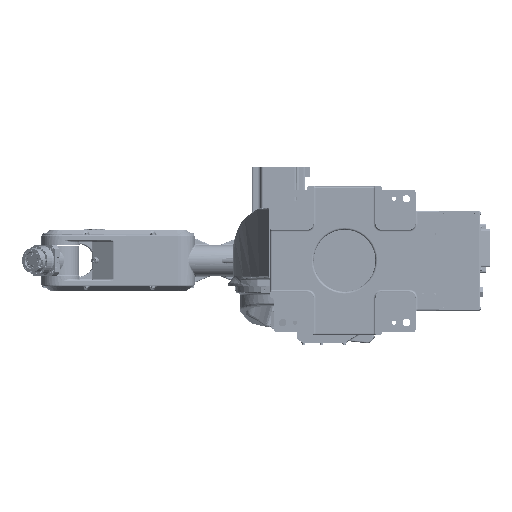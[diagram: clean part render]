
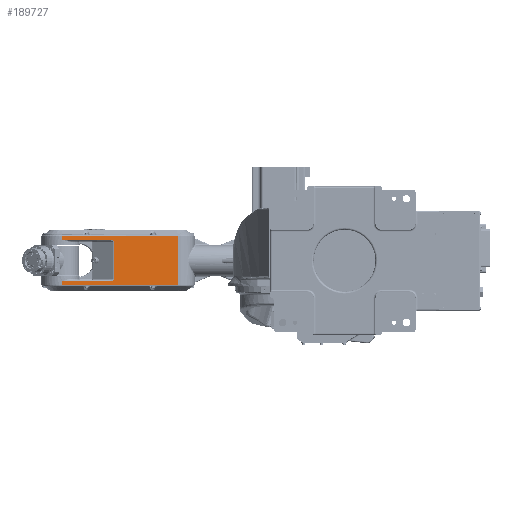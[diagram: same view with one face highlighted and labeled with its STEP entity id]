
A CAD part, front view. The second image highlights one B-rep face of the part: STEP entity #189727.
In plain terms, the highlighted planar face has unit normal (0.101, -0.995, 0) as drawn and (0, 1, 0) by its records, which use the part's own axes.
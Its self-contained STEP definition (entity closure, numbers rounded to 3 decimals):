
#778 = VERTEX_POINT ( 'NONE', #90736 ) ;
#1961 =( BOUNDED_CURVE ( )  B_SPLINE_CURVE ( 3, ( #88651, #184844, #49875, #4566 ),
 .UNSPECIFIED., .F., .F. ) 
 B_SPLINE_CURVE_WITH_KNOTS ( ( 4, 4 ),
 ( 1.571, 3.142 ),
 .UNSPECIFIED. ) 
 CURVE ( )  GEOMETRIC_REPRESENTATION_ITEM ( )  RATIONAL_B_SPLINE_CURVE ( ( 1., 0.805, 0.805, 1. ) ) 
 REPRESENTATION_ITEM ( '' )  );
#4343 = CARTESIAN_POINT ( 'NONE',  ( 372.238, 46., -47.5 ) ) ;
#4566 = CARTESIAN_POINT ( 'NONE',  ( 372.238, 46., 44.5 ) ) ;
#13105 = LINE ( 'NONE', #178571, #169790 ) ;
#15659 = VECTOR ( 'NONE', #107824, 1000. ) ;
#22011 = FACE_OUTER_BOUND ( 'NONE', #123506, .T. ) ;
#28423 =( BOUNDED_CURVE ( )  B_SPLINE_CURVE ( 3, ( #120437, #180492, #45557, #105669 ),
 .UNSPECIFIED., .F., .F. ) 
 B_SPLINE_CURVE_WITH_KNOTS ( ( 4, 4 ),
 ( 3.142, 4.712 ),
 .UNSPECIFIED. ) 
 CURVE ( )  GEOMETRIC_REPRESENTATION_ITEM ( )  RATIONAL_B_SPLINE_CURVE ( ( 1., 0.805, 0.805, 1. ) ) 
 REPRESENTATION_ITEM ( '' )  );
#30898 = VERTEX_POINT ( 'NONE', #113107 ) ;
#32186 = LINE ( 'NONE', #91322, #48870 ) ;
#42460 = ORIENTED_EDGE ( 'NONE', *, *, #54193, .T. ) ;
#43303 = VERTEX_POINT ( 'NONE', #111743 ) ;
#45557 = CARTESIAN_POINT ( 'NONE',  ( 376.104, 46., -50.5 ) ) ;
#48870 = VECTOR ( 'NONE', #123827, 1000. ) ;
#49875 = CARTESIAN_POINT ( 'NONE',  ( 372.238, 46., 48.015 ) ) ;
#50332 = CARTESIAN_POINT ( 'NONE',  ( 498., 46., -62. ) ) ;
#51194 = VECTOR ( 'NONE', #82806, 1000. ) ;
#53493 = PLANE ( 'NONE',  #147108 ) ;
#54193 = EDGE_CURVE ( 'NONE', #778, #128237, #1961, .T. ) ;
#55860 = LINE ( 'NONE', #115988, #118741 ) ;
#58538 = EDGE_CURVE ( 'NONE', #71687, #81911, #28423, .T. ) ;
#61066 = EDGE_CURVE ( 'NONE', #148885, #43303, #64136, .T. ) ;
#62206 = CARTESIAN_POINT ( 'NONE',  ( 216., 46., -59. ) ) ;
#63237 = ORIENTED_EDGE ( 'NONE', *, *, #68045, .T. ) ;
#64136 = LINE ( 'NONE', #50332, #51194 ) ;
#64344 = CARTESIAN_POINT ( 'NONE',  ( 372.238, 46., -44.5 ) ) ;
#65742 = EDGE_CURVE ( 'NONE', #95926, #30898, #188720, .T. ) ;
#66250 = CARTESIAN_POINT ( 'NONE',  ( 498., 46., -59. ) ) ;
#68045 = EDGE_CURVE ( 'NONE', #181356, #129789, #32186, .T. ) ;
#70829 = VECTOR ( 'NONE', #131563, 1000. ) ;
#71687 = VERTEX_POINT ( 'NONE', #64344 ) ;
#73406 = CARTESIAN_POINT ( 'NONE',  ( 498., 46., 50.5 ) ) ;
#75310 = ORIENTED_EDGE ( 'NONE', *, *, #58538, .T. ) ;
#78936 = DIRECTION ( 'NONE',  ( 1., 0., 0. ) ) ;
#79736 = ORIENTED_EDGE ( 'NONE', *, *, #139336, .T. ) ;
#79918 = VECTOR ( 'NONE', #78936, 1000. ) ;
#80147 = CARTESIAN_POINT ( 'NONE',  ( 498., 46., -62. ) ) ;
#81911 = VERTEX_POINT ( 'NONE', #192364 ) ;
#82806 = DIRECTION ( 'NONE',  ( 0., 0., 1. ) ) ;
#88651 = CARTESIAN_POINT ( 'NONE',  ( 381.572, 46., 50.5 ) ) ;
#90736 = CARTESIAN_POINT ( 'NONE',  ( 381.572, 46., 50.5 ) ) ;
#91322 = CARTESIAN_POINT ( 'NONE',  ( 216., 46., -62. ) ) ;
#95926 = VERTEX_POINT ( 'NONE', #66250 ) ;
#96315 = CARTESIAN_POINT ( 'NONE',  ( 372.238, 46., 44.5 ) ) ;
#96862 = DIRECTION ( 'NONE',  ( 0., -1., 0. ) ) ;
#97833 = CARTESIAN_POINT ( 'NONE',  ( 216., 46., 59. ) ) ;
#99091 = CARTESIAN_POINT ( 'NONE',  ( 216., 46., -59. ) ) ;
#105669 = CARTESIAN_POINT ( 'NONE',  ( 381.572, 46., -50.5 ) ) ;
#107824 = DIRECTION ( 'NONE',  ( 0., 0., -1. ) ) ;
#111743 = CARTESIAN_POINT ( 'NONE',  ( 498., 46., 59. ) ) ;
#112639 = DIRECTION ( 'NONE',  ( 1., 0., 0. ) ) ;
#113107 = CARTESIAN_POINT ( 'NONE',  ( 498., 46., -50.5 ) ) ;
#115988 = CARTESIAN_POINT ( 'NONE',  ( 498., 46., -50.5 ) ) ;
#118741 = VECTOR ( 'NONE', #148455, 1000. ) ;
#120437 = CARTESIAN_POINT ( 'NONE',  ( 372.238, 46., -44.5 ) ) ;
#122922 = EDGE_CURVE ( 'NONE', #181356, #95926, #137103, .T. ) ;
#123506 = EDGE_LOOP ( 'NONE', ( #63237, #184876, #167320, #139885, #42460, #79736, #75310, #126660, #191904, #168533 ) ) ;
#123827 = DIRECTION ( 'NONE',  ( 0., 0., 1. ) ) ;
#126660 = ORIENTED_EDGE ( 'NONE', *, *, #128328, .T. ) ;
#127414 = CARTESIAN_POINT ( 'NONE',  ( 216., 46., 59. ) ) ;
#128237 = VERTEX_POINT ( 'NONE', #96315 ) ;
#128328 = EDGE_CURVE ( 'NONE', #81911, #30898, #55860, .T. ) ;
#129789 = VERTEX_POINT ( 'NONE', #127414 ) ;
#131328 = DIRECTION ( 'NONE',  ( -1., 0., 0. ) ) ;
#131383 = EDGE_CURVE ( 'NONE', #129789, #43303, #190403, .T. ) ;
#131563 = DIRECTION ( 'NONE',  ( 0., 0., 1. ) ) ;
#137103 = LINE ( 'NONE', #62206, #79918 ) ;
#139336 = EDGE_CURVE ( 'NONE', #128237, #71687, #166914, .T. ) ;
#139885 = ORIENTED_EDGE ( 'NONE', *, *, #166028, .T. ) ;
#147108 = AXIS2_PLACEMENT_3D ( 'NONE', #80147, #96862, #156963 ) ;
#148455 = DIRECTION ( 'NONE',  ( 1., 0., 0. ) ) ;
#148885 = VERTEX_POINT ( 'NONE', #73406 ) ;
#156963 = DIRECTION ( 'NONE',  ( 0., 0., 1. ) ) ;
#166028 = EDGE_CURVE ( 'NONE', #148885, #778, #13105, .T. ) ;
#166914 = LINE ( 'NONE', #4343, #15659 ) ;
#167320 = ORIENTED_EDGE ( 'NONE', *, *, #61066, .F. ) ;
#168533 = ORIENTED_EDGE ( 'NONE', *, *, #122922, .F. ) ;
#169726 = VECTOR ( 'NONE', #112639, 1000. ) ;
#169790 = VECTOR ( 'NONE', #131328, 1000. ) ;
#172982 = CARTESIAN_POINT ( 'NONE',  ( 498., 46., -62. ) ) ;
#178571 = CARTESIAN_POINT ( 'NONE',  ( 373.33, 46., 50.5 ) ) ;
#180492 = CARTESIAN_POINT ( 'NONE',  ( 372.238, 46., -48.015 ) ) ;
#181356 = VERTEX_POINT ( 'NONE', #99091 ) ;
#184844 = CARTESIAN_POINT ( 'NONE',  ( 376.104, 46., 50.5 ) ) ;
#184876 = ORIENTED_EDGE ( 'NONE', *, *, #131383, .T. ) ;
#188720 = LINE ( 'NONE', #172982, #70829 ) ;
#189727 = ADVANCED_FACE ( 'NONE', ( #22011 ), #53493, .F. ) ;
#190403 = LINE ( 'NONE', #97833, #169726 ) ;
#191904 = ORIENTED_EDGE ( 'NONE', *, *, #65742, .F. ) ;
#192364 = CARTESIAN_POINT ( 'NONE',  ( 381.572, 46., -50.5 ) ) ;
